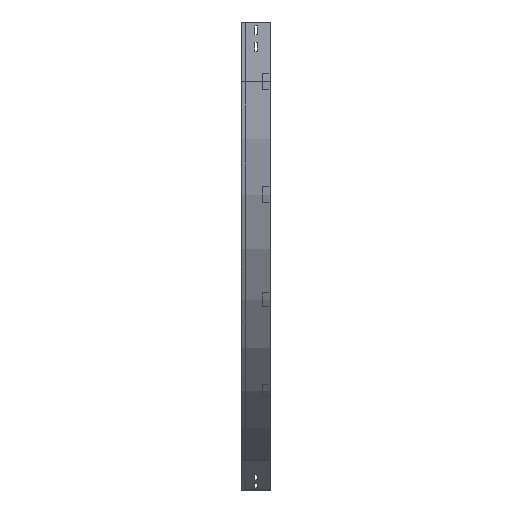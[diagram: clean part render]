
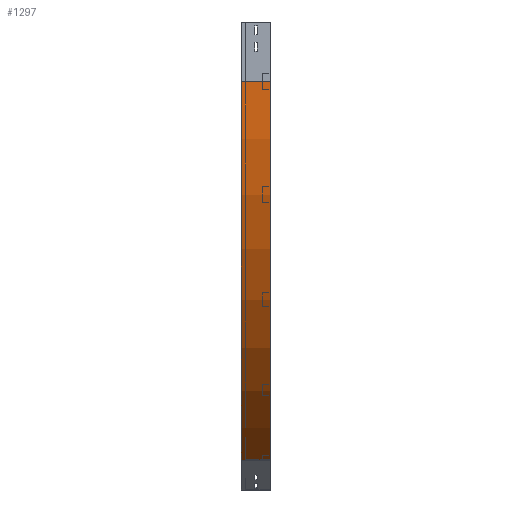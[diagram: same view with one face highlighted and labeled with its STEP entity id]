
A CAD part, left-side view. The second image highlights one B-rep face of the part: STEP entity #1297.
In plain terms, the highlighted cylindrical face has radius 1100 mm (diameter 2200 mm), a partial arc.
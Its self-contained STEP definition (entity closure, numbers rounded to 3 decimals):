
#170 = CIRCLE ( 'NONE', #2868, 1100. ) ;
#415 = EDGE_CURVE ( 'NONE', #445, #3388, #963, .T. ) ;
#445 = VERTEX_POINT ( 'NONE', #2334 ) ;
#461 = AXIS2_PLACEMENT_3D ( 'NONE', #3458, #1441, #792 ) ;
#466 = ORIENTED_EDGE ( 'NONE', *, *, #415, .T. ) ;
#477 = AXIS2_PLACEMENT_3D ( 'NONE', #1771, #2966, #1404 ) ;
#499 = LINE ( 'NONE', #1079, #913 ) ;
#565 = CARTESIAN_POINT ( 'NONE',  ( 0., 0., -150. ) ) ;
#792 = DIRECTION ( 'NONE',  ( -1., 0., 0. ) ) ;
#864 = DIRECTION ( 'NONE',  ( 0., -1., 0. ) ) ;
#913 = VECTOR ( 'NONE', #864, 1000. ) ;
#963 = CIRCLE ( 'NONE', #461, 1100. ) ;
#1079 = CARTESIAN_POINT ( 'NONE',  ( 550., 0., -1102.628 ) ) ;
#1198 = DIRECTION ( 'NONE',  ( 0., -1., 0. ) ) ;
#1255 = VERTEX_POINT ( 'NONE', #565 ) ;
#1297 = ADVANCED_FACE ( 'NONE', ( #3783 ), #2071, .T. ) ;
#1404 = DIRECTION ( 'NONE',  ( 0., 0., -1. ) ) ;
#1441 = DIRECTION ( 'NONE',  ( 0., -1., 0. ) ) ;
#1737 = EDGE_LOOP ( 'NONE', ( #2196, #2961, #466, #3655 ) ) ;
#1771 = CARTESIAN_POINT ( 'NONE',  ( 1100., 0., -150. ) ) ;
#1790 = CARTESIAN_POINT ( 'NONE',  ( 550., 0., -1102.628 ) ) ;
#1865 = DIRECTION ( 'NONE',  ( -1., 0., 0. ) ) ;
#2071 = CYLINDRICAL_SURFACE ( 'NONE', #477, 1100. ) ;
#2127 = EDGE_CURVE ( 'NONE', #3388, #2542, #499, .T. ) ;
#2144 = CARTESIAN_POINT ( 'NONE',  ( 1100., 0., -150. ) ) ;
#2157 = LINE ( 'NONE', #2685, #3290 ) ;
#2196 = ORIENTED_EDGE ( 'NONE', *, *, #2710, .F. ) ;
#2334 = CARTESIAN_POINT ( 'NONE',  ( 0., 75., -150. ) ) ;
#2542 = VERTEX_POINT ( 'NONE', #1790 ) ;
#2685 = CARTESIAN_POINT ( 'NONE',  ( 0., 0., -150. ) ) ;
#2710 = EDGE_CURVE ( 'NONE', #1255, #2542, #170, .T. ) ;
#2868 = AXIS2_PLACEMENT_3D ( 'NONE', #2144, #3323, #1865 ) ;
#2883 = CARTESIAN_POINT ( 'NONE',  ( 550., 75., -1102.628 ) ) ;
#2961 = ORIENTED_EDGE ( 'NONE', *, *, #3061, .F. ) ;
#2966 = DIRECTION ( 'NONE',  ( 0., -1., 0. ) ) ;
#3061 = EDGE_CURVE ( 'NONE', #445, #1255, #2157, .T. ) ;
#3290 = VECTOR ( 'NONE', #1198, 1000. ) ;
#3323 = DIRECTION ( 'NONE',  ( 0., -1., 0. ) ) ;
#3388 = VERTEX_POINT ( 'NONE', #2883 ) ;
#3458 = CARTESIAN_POINT ( 'NONE',  ( 1100., 75., -150. ) ) ;
#3655 = ORIENTED_EDGE ( 'NONE', *, *, #2127, .T. ) ;
#3783 = FACE_OUTER_BOUND ( 'NONE', #1737, .T. ) ;
